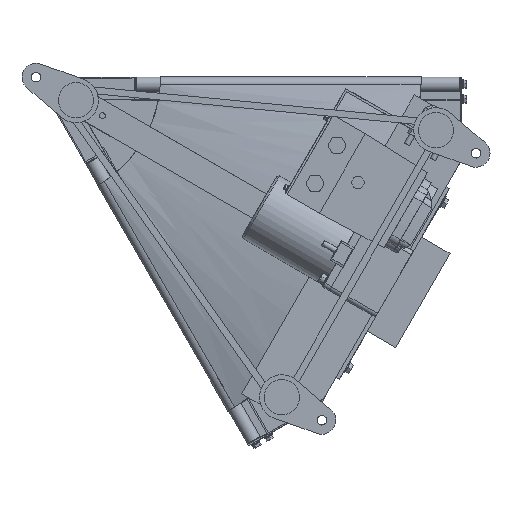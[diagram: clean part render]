
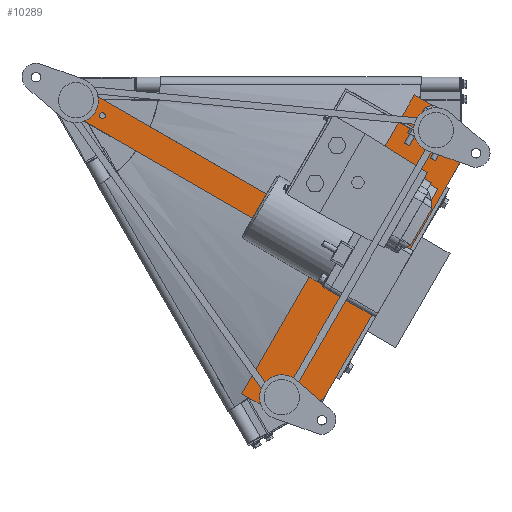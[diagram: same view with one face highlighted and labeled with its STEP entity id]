
A CAD part, front view. The second image highlights one B-rep face of the part: STEP entity #10289.
In plain terms, the highlighted planar face has unit normal (0, -1, 0).
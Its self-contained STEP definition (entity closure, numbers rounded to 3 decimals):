
#103 = CARTESIAN_POINT ( 'NONE',  ( 280.762, -167.5, -431.432 ) ) ;
#107 = EDGE_CURVE ( 'NONE', #33378, #8962, #9768, .T. ) ;
#565 = LINE ( 'NONE', #30177, #34534 ) ;
#884 = VERTEX_POINT ( 'NONE', #17272 ) ;
#2521 = CARTESIAN_POINT ( 'NONE',  ( 515.762, -167.5, -24.4 ) ) ;
#3444 = ORIENTED_EDGE ( 'NONE', *, *, #107, .F. ) ;
#4090 = DIRECTION ( 'NONE',  ( 0.5, 0., 0.866 ) ) ;
#4279 = ORIENTED_EDGE ( 'NONE', *, *, #48108, .F. ) ;
#5111 = ORIENTED_EDGE ( 'NONE', *, *, #32569, .F. ) ;
#5809 = EDGE_CURVE ( 'NONE', #30613, #46117, #48588, .T. ) ;
#6231 = LINE ( 'NONE', #33880, #9945 ) ;
#6495 = LINE ( 'NONE', #2521, #36716 ) ;
#6499 = LINE ( 'NONE', #103, #49689 ) ;
#6890 = VERTEX_POINT ( 'NONE', #12031 ) ;
#8369 = LINE ( 'NONE', #31853, #47873 ) ;
#8565 = EDGE_CURVE ( 'NONE', #46117, #6890, #6499, .T. ) ;
#8962 = VERTEX_POINT ( 'NONE', #38524 ) ;
#9768 = LINE ( 'NONE', #17540, #31965 ) ;
#9945 = VECTOR ( 'NONE', #14241, 1000. ) ;
#10289 = ADVANCED_FACE ( 'NONE', ( #17253 ), #18734, .T. ) ;
#11166 = DIRECTION ( 'NONE',  ( 0., -1., 0. ) ) ;
#11580 = DIRECTION ( 'NONE',  ( 0.017, 0., -1. ) ) ;
#11748 = ORIENTED_EDGE ( 'NONE', *, *, #18819, .F. ) ;
#11871 = CARTESIAN_POINT ( 'NONE',  ( 34.549, -167.5, -41.886 ) ) ;
#11913 = ORIENTED_EDGE ( 'NONE', *, *, #46191, .F. ) ;
#12031 = CARTESIAN_POINT ( 'NONE',  ( 515.762, -167.5, -24.4 ) ) ;
#13355 = AXIS2_PLACEMENT_3D ( 'NONE', #23232, #11166, #43411 ) ;
#14241 = DIRECTION ( 'NONE',  ( -0.866, 0., 0.5 ) ) ;
#15892 = VECTOR ( 'NONE', #18813, 1000. ) ;
#16002 = EDGE_CURVE ( 'NONE', #6890, #50137, #6495, .T. ) ;
#16732 = DIRECTION ( 'NONE',  ( 0.5, 0., 0.866 ) ) ;
#16912 = EDGE_CURVE ( 'NONE', #50137, #33378, #8369, .T. ) ;
#17227 = LINE ( 'NONE', #11871, #33257 ) ;
#17253 = FACE_OUTER_BOUND ( 'NONE', #20456, .T. ) ;
#17272 = CARTESIAN_POINT ( 'NONE',  ( 387.887, -167.5, -245.886 ) ) ;
#17540 = CARTESIAN_POINT ( 'NONE',  ( 392.365, -167.5, -438.131 ) ) ;
#17954 = CARTESIAN_POINT ( 'NONE',  ( 341.384, -167.5, -466.432 ) ) ;
#18471 = DIRECTION ( 'NONE',  ( -0.874, 0., -0.485 ) ) ;
#18734 = PLANE ( 'NONE',  #13355 ) ;
#18813 = DIRECTION ( 'NONE',  ( 0.866, 0., -0.5 ) ) ;
#18819 = EDGE_CURVE ( 'NONE', #8962, #27889, #565, .T. ) ;
#20456 = EDGE_LOOP ( 'NONE', ( #11913, #24281, #4279, #11748, #3444, #22740, #33950, #30253, #47110, #5111 ) ) ;
#22740 = ORIENTED_EDGE ( 'NONE', *, *, #16912, .F. ) ;
#23109 = CARTESIAN_POINT ( 'NONE',  ( 576.384, -167.5, -59.4 ) ) ;
#23232 = CARTESIAN_POINT ( 'NONE',  ( 6.377, -167.5, -3.682 ) ) ;
#24281 = ORIENTED_EDGE ( 'NONE', *, *, #46877, .F. ) ;
#24469 = CARTESIAN_POINT ( 'NONE',  ( 280.762, -167.5, -431.432 ) ) ;
#26599 = VERTEX_POINT ( 'NONE', #38149 ) ;
#26892 = VECTOR ( 'NONE', #48544, 1000. ) ;
#27854 = DIRECTION ( 'NONE',  ( 0.5, 0., 0.866 ) ) ;
#27889 = VERTEX_POINT ( 'NONE', #17954 ) ;
#28096 = CARTESIAN_POINT ( 'NONE',  ( 53.549, -167.5, -8.977 ) ) ;
#29503 = VECTOR ( 'NONE', #16732, 1000. ) ;
#30091 = DIRECTION ( 'NONE',  ( 0.866, 0., -0.5 ) ) ;
#30109 = LINE ( 'NONE', #24469, #29503 ) ;
#30177 = CARTESIAN_POINT ( 'NONE',  ( 341.384, -167.5, -466.432 ) ) ;
#30253 = ORIENTED_EDGE ( 'NONE', *, *, #8565, .F. ) ;
#30613 = VERTEX_POINT ( 'NONE', #28096 ) ;
#31853 = CARTESIAN_POINT ( 'NONE',  ( 577.365, -167.5, -117.701 ) ) ;
#31965 = VECTOR ( 'NONE', #43602, 1000. ) ;
#32569 = EDGE_CURVE ( 'NONE', #26599, #30613, #17227, .T. ) ;
#33257 = VECTOR ( 'NONE', #4090, 1000. ) ;
#33378 = VERTEX_POINT ( 'NONE', #45904 ) ;
#33880 = CARTESIAN_POINT ( 'NONE',  ( 34.549, -167.5, -41.886 ) ) ;
#33950 = ORIENTED_EDGE ( 'NONE', *, *, #16002, .F. ) ;
#34534 = VECTOR ( 'NONE', #18471, 1000. ) ;
#36460 = CARTESIAN_POINT ( 'NONE',  ( 280.762, -167.5, -431.432 ) ) ;
#36716 = VECTOR ( 'NONE', #30091, 1000. ) ;
#37043 = CARTESIAN_POINT ( 'NONE',  ( 280.762, -167.5, -431.432 ) ) ;
#38149 = CARTESIAN_POINT ( 'NONE',  ( 34.549, -167.5, -41.886 ) ) ;
#38215 = VERTEX_POINT ( 'NONE', #37043 ) ;
#38524 = CARTESIAN_POINT ( 'NONE',  ( 392.365, -167.5, -438.131 ) ) ;
#38615 = CARTESIAN_POINT ( 'NONE',  ( 53.549, -167.5, -8.977 ) ) ;
#39821 = LINE ( 'NONE', #36460, #26892 ) ;
#43411 = DIRECTION ( 'NONE',  ( -0.139, 0., -0.99 ) ) ;
#43602 = DIRECTION ( 'NONE',  ( -0.5, 0., -0.866 ) ) ;
#45262 = CARTESIAN_POINT ( 'NONE',  ( 406.887, -167.5, -212.977 ) ) ;
#45904 = CARTESIAN_POINT ( 'NONE',  ( 577.365, -167.5, -117.701 ) ) ;
#46117 = VERTEX_POINT ( 'NONE', #45262 ) ;
#46191 = EDGE_CURVE ( 'NONE', #884, #26599, #6231, .T. ) ;
#46877 = EDGE_CURVE ( 'NONE', #38215, #884, #30109, .T. ) ;
#47110 = ORIENTED_EDGE ( 'NONE', *, *, #5809, .F. ) ;
#47873 = VECTOR ( 'NONE', #11580, 1000. ) ;
#48108 = EDGE_CURVE ( 'NONE', #27889, #38215, #39821, .T. ) ;
#48544 = DIRECTION ( 'NONE',  ( -0.866, 0., 0.5 ) ) ;
#48588 = LINE ( 'NONE', #38615, #15892 ) ;
#49689 = VECTOR ( 'NONE', #27854, 1000. ) ;
#50137 = VERTEX_POINT ( 'NONE', #23109 ) ;
